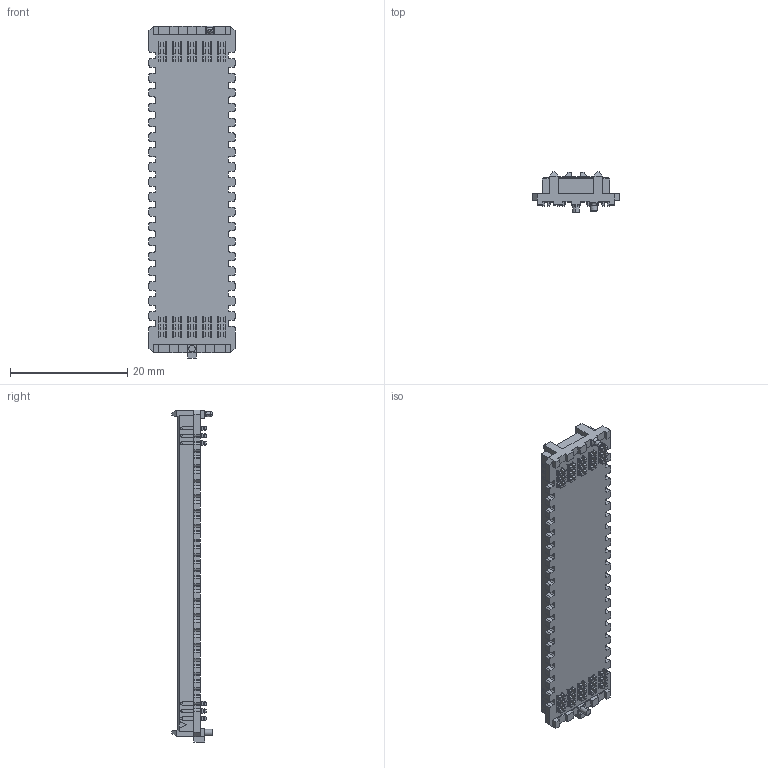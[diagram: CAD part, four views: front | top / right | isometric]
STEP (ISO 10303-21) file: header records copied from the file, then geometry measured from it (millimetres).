
FILE_DESCRIPTION (( 'STEP AP203' ), '1' );
FILE_NAME ('ASP-134602-01.step', '2018-02-19T20:12:21', ( '' ), ( '' ), 'SwSTEP 2.0', 'SolidWorks 2016', '' );
FILE_SCHEMA (( 'CONFIG_CONTROL_DESIGN' ));
Products named in the file (1): ASP-134602-01
Bounding box: 14.68 x 6.88 x 56.67 mm (x, y, z)
Volume: 1939.3 mm3; surface area: 4027.3 mm2
Topology: 122 solids, 122 shells, 4845 faces, 12728 edges, 8192 vertices
Faces by surface type: plane 2577, cylinder 1656, bspline 252, cone 240, torus 120
Entity records: 151738 total; most frequent: CARTESIAN_POINT 32333, ORIENTED_EDGE 25456, DIRECTION 24378, EDGE_CURVE 12728, VERTEX_POINT 8192, AXIS2_PLACEMENT_3D 8156, VECTOR 8066, LINE 8066
